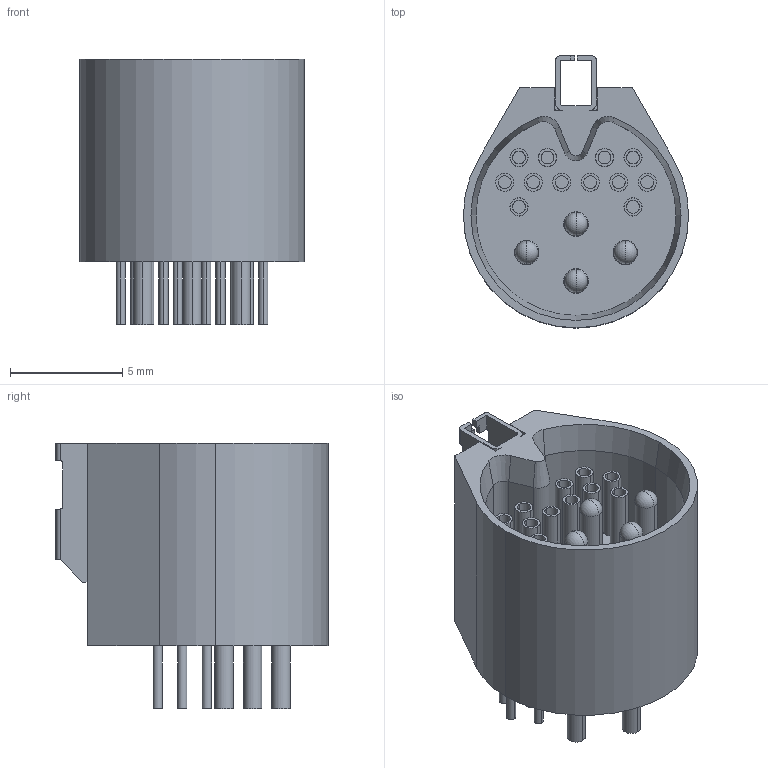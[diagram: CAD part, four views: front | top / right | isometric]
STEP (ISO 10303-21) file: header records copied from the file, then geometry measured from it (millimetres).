
FILE_DESCRIPTION (( 'STEP AP214' ), '1' );
FILE_NAME ('A90182-001 REV B.STEP', '2018-01-25T17:19:54', ( '' ), ( '' ), 'SwSTEP 2.0', 'SolidWorks 2017', '' );
FILE_SCHEMA (( 'AUTOMOTIVE_DESIGN' ));
Length unit declared in the file: inch
Products named in the file (1): A90182-001 REV_A
Bounding box: 10.03 x 12.13 x 11.81 mm (x, y, z)
Volume: 497.6 mm3; surface area: 1104 mm2
Topology: 1 solids, 1 shells, 387 faces, 944 edges, 606 vertices
Faces by surface type: cylinder 223, plane 142, sphere 8, torus 8, cone 6
Entity records: 11572 total; most frequent: CARTESIAN_POINT 2166, DIRECTION 2078, ORIENTED_EDGE 1856, EDGE_CURVE 928, AXIS2_PLACEMENT_3D 814, VERTEX_POINT 598, EDGE_LOOP 470, LINE 450
